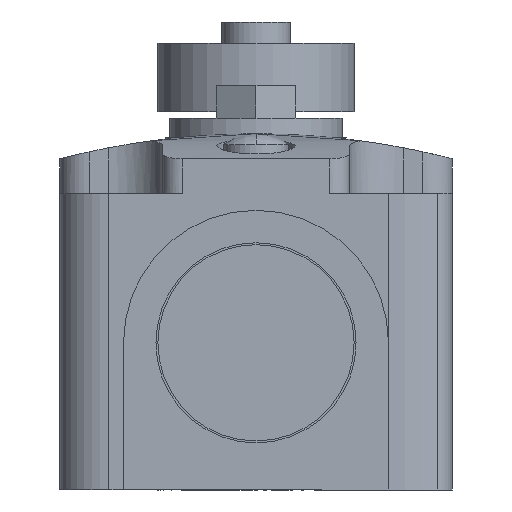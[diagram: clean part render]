
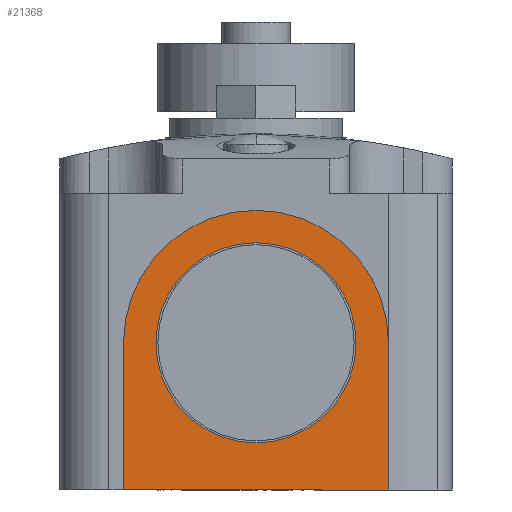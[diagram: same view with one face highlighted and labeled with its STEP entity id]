
A CAD part, front view. The second image highlights one B-rep face of the part: STEP entity #21368.
In plain terms, the highlighted planar face has unit normal (0, -1, 0).
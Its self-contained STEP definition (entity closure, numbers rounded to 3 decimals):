
#908 = ORIENTED_EDGE ( 'NONE', *, *, #25771, .F. ) ;
#953 = VERTEX_POINT ( 'NONE', #20520 ) ;
#1226 = VERTEX_POINT ( 'NONE', #6937 ) ;
#1458 = FACE_OUTER_BOUND ( 'NONE', #7152, .T. ) ;
#1521 = DIRECTION ( 'NONE',  ( 0., 0., -1. ) ) ;
#2134 = ORIENTED_EDGE ( 'NONE', *, *, #2144, .F. ) ;
#2144 = EDGE_CURVE ( 'NONE', #15102, #12666, #18957, .T. ) ;
#3428 = CIRCLE ( 'NONE', #26913, 13.5 ) ;
#3918 = LINE ( 'NONE', #11574, #16871 ) ;
#4096 = CARTESIAN_POINT ( 'NONE',  ( 0., -36.2, 0. ) ) ;
#4282 = CIRCLE ( 'NONE', #10467, 13.5 ) ;
#5736 = CARTESIAN_POINT ( 'NONE',  ( 0., -36.2, -13.5 ) ) ;
#6554 = DIRECTION ( 'NONE',  ( 0., 0., -1. ) ) ;
#6937 = CARTESIAN_POINT ( 'NONE',  ( -13.5, -36.2, 15. ) ) ;
#7152 = EDGE_LOOP ( 'NONE', ( #9189, #22304, #908, #12199, #21343 ) ) ;
#7701 = CARTESIAN_POINT ( 'NONE',  ( 13.5, -36.2, 15. ) ) ;
#7956 = FACE_BOUND ( 'NONE', #18972, .T. ) ;
#8546 = CARTESIAN_POINT ( 'NONE',  ( -13.5, -36.2, 15. ) ) ;
#8706 = DIRECTION ( 'NONE',  ( 0., 0., 1. ) ) ;
#8802 = CARTESIAN_POINT ( 'NONE',  ( 0., -36.2, -10.2 ) ) ;
#9189 = ORIENTED_EDGE ( 'NONE', *, *, #30239, .F. ) ;
#10391 = CARTESIAN_POINT ( 'NONE',  ( 0., -36.2, 0. ) ) ;
#10397 = CIRCLE ( 'NONE', #19718, 10.2 ) ;
#10467 = AXIS2_PLACEMENT_3D ( 'NONE', #13672, #30821, #16127 ) ;
#10574 = EDGE_CURVE ( 'NONE', #12666, #15102, #10397, .T. ) ;
#11574 = CARTESIAN_POINT ( 'NONE',  ( -13.5, -36.2, -21.3 ) ) ;
#12199 = ORIENTED_EDGE ( 'NONE', *, *, #28237, .F. ) ;
#12213 = EDGE_CURVE ( 'NONE', #953, #28912, #12620, .T. ) ;
#12620 = LINE ( 'NONE', #18428, #18362 ) ;
#12666 = VERTEX_POINT ( 'NONE', #17953 ) ;
#12853 = DIRECTION ( 'NONE',  ( 0., 0., -1. ) ) ;
#13672 = CARTESIAN_POINT ( 'NONE',  ( 0., -36.2, 0. ) ) ;
#15102 = VERTEX_POINT ( 'NONE', #8802 ) ;
#15166 = DIRECTION ( 'NONE',  ( 0., 0., -1. ) ) ;
#16122 = DIRECTION ( 'NONE',  ( 0., 1., 0. ) ) ;
#16127 = DIRECTION ( 'NONE',  ( 0., 0., -1. ) ) ;
#16871 = VECTOR ( 'NONE', #28716, 1000. ) ;
#17953 = CARTESIAN_POINT ( 'NONE',  ( 0., -36.2, 10.2 ) ) ;
#18362 = VECTOR ( 'NONE', #8706, 1000. ) ;
#18428 = CARTESIAN_POINT ( 'NONE',  ( 13.5, -36.2, -21.3 ) ) ;
#18612 = EDGE_CURVE ( 'NONE', #26129, #25856, #4282, .T. ) ;
#18723 = AXIS2_PLACEMENT_3D ( 'NONE', #19989, #29844, #15166 ) ;
#18957 = CIRCLE ( 'NONE', #20383, 10.2 ) ;
#18972 = EDGE_LOOP ( 'NONE', ( #2134, #22417 ) ) ;
#19718 = AXIS2_PLACEMENT_3D ( 'NONE', #10391, #27549, #12853 ) ;
#19989 = CARTESIAN_POINT ( 'NONE',  ( -13.5, -36.2, -21.3 ) ) ;
#20383 = AXIS2_PLACEMENT_3D ( 'NONE', #4096, #21210, #6554 ) ;
#20520 = CARTESIAN_POINT ( 'NONE',  ( 13.5, -36.2, 0. ) ) ;
#20874 = VECTOR ( 'NONE', #25685, 1000. ) ;
#21210 = DIRECTION ( 'NONE',  ( 0., -1., 0. ) ) ;
#21343 = ORIENTED_EDGE ( 'NONE', *, *, #18612, .F. ) ;
#21368 = ADVANCED_FACE ( 'NONE', ( #7956, #1458 ), #27403, .T. ) ;
#22304 = ORIENTED_EDGE ( 'NONE', *, *, #12213, .T. ) ;
#22417 = ORIENTED_EDGE ( 'NONE', *, *, #10574, .F. ) ;
#25685 = DIRECTION ( 'NONE',  ( 1., 0., 0. ) ) ;
#25771 = EDGE_CURVE ( 'NONE', #1226, #28912, #27391, .T. ) ;
#25856 = VERTEX_POINT ( 'NONE', #31320 ) ;
#26129 = VERTEX_POINT ( 'NONE', #5736 ) ;
#26913 = AXIS2_PLACEMENT_3D ( 'NONE', #30815, #16122, #1521 ) ;
#27391 = LINE ( 'NONE', #8546, #20874 ) ;
#27403 = PLANE ( 'NONE',  #18723 ) ;
#27549 = DIRECTION ( 'NONE',  ( 0., -1., 0. ) ) ;
#28237 = EDGE_CURVE ( 'NONE', #25856, #1226, #3918, .T. ) ;
#28716 = DIRECTION ( 'NONE',  ( 0., 0., 1. ) ) ;
#28912 = VERTEX_POINT ( 'NONE', #7701 ) ;
#29844 = DIRECTION ( 'NONE',  ( 0., -1., 0. ) ) ;
#30239 = EDGE_CURVE ( 'NONE', #953, #26129, #3428, .T. ) ;
#30815 = CARTESIAN_POINT ( 'NONE',  ( 0., -36.2, 0. ) ) ;
#30821 = DIRECTION ( 'NONE',  ( 0., 1., 0. ) ) ;
#31320 = CARTESIAN_POINT ( 'NONE',  ( -13.5, -36.2, 0. ) ) ;
